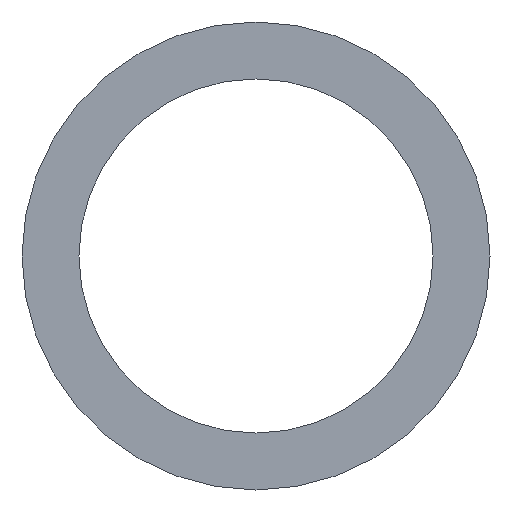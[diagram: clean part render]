
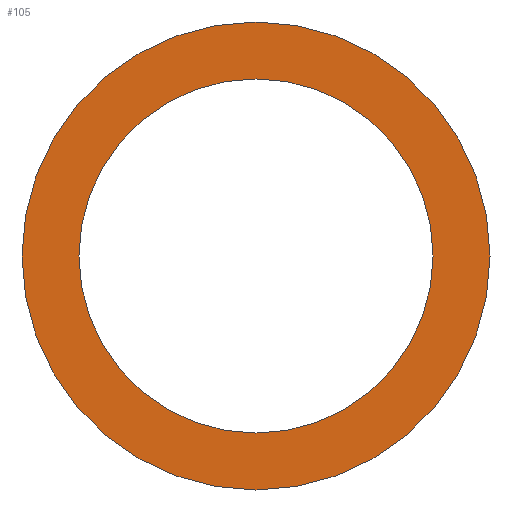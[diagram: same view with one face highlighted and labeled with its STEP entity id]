
A CAD part, front view. The second image highlights one B-rep face of the part: STEP entity #105.
In plain terms, the highlighted planar face has unit normal (0, -1, 0).
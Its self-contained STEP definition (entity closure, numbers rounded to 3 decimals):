
#21 = EDGE_CURVE('',#22,#22,#24,.T.);
#22 = VERTEX_POINT('',#23);
#23 = CARTESIAN_POINT('',(37.,-60.,0.));
#24 = SURFACE_CURVE('',#25,(#30,#42),.PCURVE_S1.);
#25 = CIRCLE('',#26,37.);
#26 = AXIS2_PLACEMENT_3D('',#27,#28,#29);
#27 = CARTESIAN_POINT('',(0.,-60.,0.));
#28 = DIRECTION('',(0.,-1.,0.));
#29 = DIRECTION('',(1.,0.,0.));
#30 = PCURVE('',#31,#36);
#31 = CYLINDRICAL_SURFACE('',#32,37.);
#32 = AXIS2_PLACEMENT_3D('',#33,#34,#35);
#33 = CARTESIAN_POINT('',(0.,-48.,0.));
#34 = DIRECTION('',(0.,-1.,0.));
#35 = DIRECTION('',(1.,0.,0.));
#36 = DEFINITIONAL_REPRESENTATION('',(#37),#41);
#37 = LINE('',#38,#39);
#38 = CARTESIAN_POINT('',(0.,12.));
#39 = VECTOR('',#40,1.);
#40 = DIRECTION('',(1.,0.));
#41 = ( GEOMETRIC_REPRESENTATION_CONTEXT(2) 
PARAMETRIC_REPRESENTATION_CONTEXT() REPRESENTATION_CONTEXT('2D SPACE',''
  ) );
#42 = PCURVE('',#43,#48);
#43 = PLANE('',#44);
#44 = AXIS2_PLACEMENT_3D('',#45,#46,#47);
#45 = CARTESIAN_POINT('',(0.,-60.,0.));
#46 = DIRECTION('',(0.,-1.,0.));
#47 = DIRECTION('',(1.,0.,0.));
#48 = DEFINITIONAL_REPRESENTATION('',(#49),#53);
#49 = CIRCLE('',#50,37.);
#50 = AXIS2_PLACEMENT_2D('',#51,#52);
#51 = CARTESIAN_POINT('',(0.,0.));
#52 = DIRECTION('',(1.,0.));
#53 = ( GEOMETRIC_REPRESENTATION_CONTEXT(2) 
PARAMETRIC_REPRESENTATION_CONTEXT() REPRESENTATION_CONTEXT('2D SPACE',''
  ) );
#105 = ADVANCED_FACE('',(#106,#109),#43,.T.);
#106 = FACE_BOUND('',#107,.T.);
#107 = EDGE_LOOP('',(#108));
#108 = ORIENTED_EDGE('',*,*,#21,.T.);
#109 = FACE_BOUND('',#110,.T.);
#110 = EDGE_LOOP('',(#111));
#111 = ORIENTED_EDGE('',*,*,#112,.F.);
#112 = EDGE_CURVE('',#113,#113,#115,.T.);
#113 = VERTEX_POINT('',#114);
#114 = CARTESIAN_POINT('',(28.,-60.,0.));
#115 = SURFACE_CURVE('',#116,(#121,#128),.PCURVE_S1.);
#116 = CIRCLE('',#117,28.);
#117 = AXIS2_PLACEMENT_3D('',#118,#119,#120);
#118 = CARTESIAN_POINT('',(0.,-60.,0.));
#119 = DIRECTION('',(0.,-1.,0.));
#120 = DIRECTION('',(1.,0.,0.));
#121 = PCURVE('',#43,#122);
#122 = DEFINITIONAL_REPRESENTATION('',(#123),#127);
#123 = CIRCLE('',#124,28.);
#124 = AXIS2_PLACEMENT_2D('',#125,#126);
#125 = CARTESIAN_POINT('',(0.,0.));
#126 = DIRECTION('',(1.,0.));
#127 = ( GEOMETRIC_REPRESENTATION_CONTEXT(2) 
PARAMETRIC_REPRESENTATION_CONTEXT() REPRESENTATION_CONTEXT('2D SPACE',''
  ) );
#128 = PCURVE('',#129,#134);
#129 = CYLINDRICAL_SURFACE('',#130,28.);
#130 = AXIS2_PLACEMENT_3D('',#131,#132,#133);
#131 = CARTESIAN_POINT('',(0.,-47.,0.));
#132 = DIRECTION('',(0.,-1.,0.));
#133 = DIRECTION('',(1.,0.,0.));
#134 = DEFINITIONAL_REPRESENTATION('',(#135),#139);
#135 = LINE('',#136,#137);
#136 = CARTESIAN_POINT('',(0.,13.));
#137 = VECTOR('',#138,1.);
#138 = DIRECTION('',(1.,0.));
#139 = ( GEOMETRIC_REPRESENTATION_CONTEXT(2) 
PARAMETRIC_REPRESENTATION_CONTEXT() REPRESENTATION_CONTEXT('2D SPACE',''
  ) );
